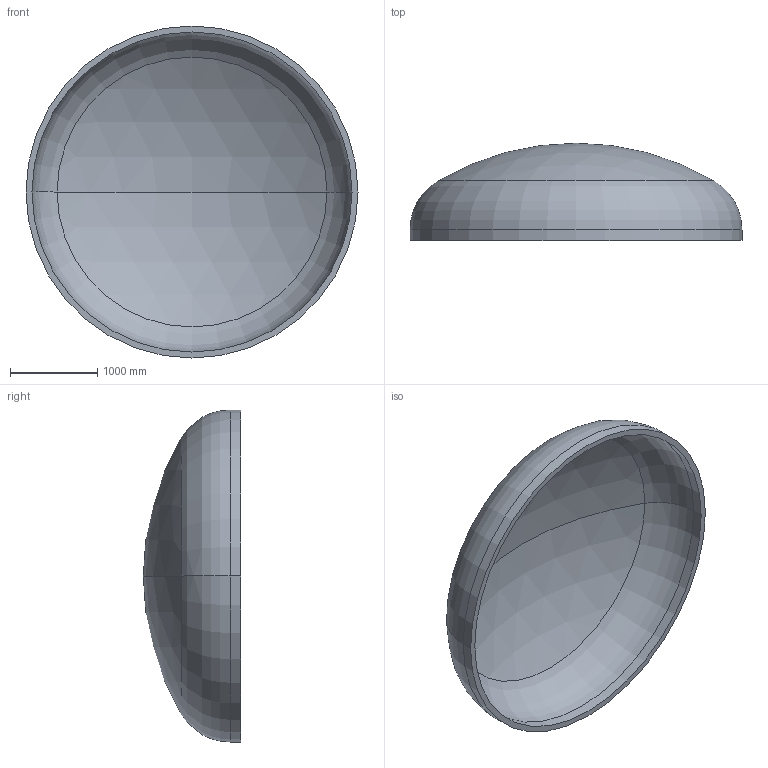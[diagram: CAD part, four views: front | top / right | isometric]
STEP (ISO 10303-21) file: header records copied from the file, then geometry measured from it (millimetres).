
FILE_DESCRIPTION (( 'STEP AP203' ), '1' );
FILE_NAME ('DIN 28013 Korbbogenform_-_Boden DIN 28013 - 3800 x 120 - I - s=68.step', '2016-07-01T21:36:10', ( '' ), ( '' ), 'SwSTEP 2.0', 'SolidWorks 2013', '' );
FILE_SCHEMA (( 'CONFIG_CONTROL_DESIGN' ));
Length unit declared in the file: millimetre
Products named in the file (1): DIN 28013 Korbbogenform_-_Boden DIN 28013 - 3800 x 120 - I - s=68
Bounding box: 3800 x 1113.29 x 3800 mm (x, y, z)
Volume: 1138795483.4 mm3; surface area: 34300918.3 mm2
Topology: 1 solids, 1 shells, 13 faces, 24 edges, 14 vertices
Faces by surface type: torus 4, cylinder 4, sphere 4, plane 1
Entity records: 407 total; most frequent: DIRECTION 72, CARTESIAN_POINT 52, ORIENTED_EDGE 48, AXIS2_PLACEMENT_3D 34, EDGE_CURVE 24, CIRCLE 20, VERTEX_POINT 14, EDGE_LOOP 14
